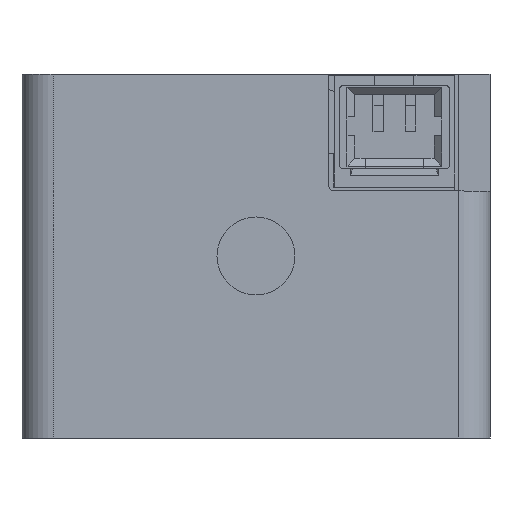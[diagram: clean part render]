
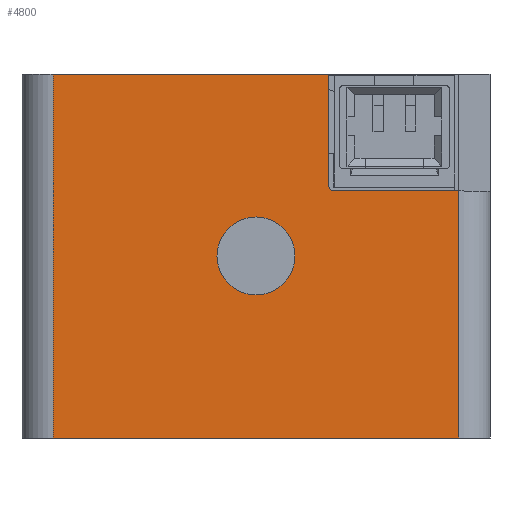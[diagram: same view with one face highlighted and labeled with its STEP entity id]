
A CAD part, front view. The second image highlights one B-rep face of the part: STEP entity #4800.
In plain terms, the highlighted planar face has unit normal (0, -1, 0).
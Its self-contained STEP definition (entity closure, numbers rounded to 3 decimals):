
#112 = VECTOR ( 'NONE', #7958, 1000. ) ;
#277 = EDGE_CURVE ( 'NONE', #3797, #7557, #8191, .T. ) ;
#347 = CARTESIAN_POINT ( 'NONE',  ( 7.8, -19.9, -7. ) ) ;
#416 = CIRCLE ( 'NONE', #7800, 1.5 ) ;
#481 = CARTESIAN_POINT ( 'NONE',  ( 3., -19.9, -4.3 ) ) ;
#512 = VECTOR ( 'NONE', #2143, 1000. ) ;
#569 = CARTESIAN_POINT ( 'NONE',  ( 0., -19.9, -4.5 ) ) ;
#610 = AXIS2_PLACEMENT_3D ( 'NONE', #1858, #6377, #2515 ) ;
#653 = ORIENTED_EDGE ( 'NONE', *, *, #4329, .F. ) ;
#1043 = AXIS2_PLACEMENT_3D ( 'NONE', #481, #4995, #1119 ) ;
#1067 = EDGE_CURVE ( 'NONE', #7699, #4814, #416, .T. ) ;
#1096 = LINE ( 'NONE', #569, #4137 ) ;
#1098 = CARTESIAN_POINT ( 'NONE',  ( 0., -19.9, -5.5 ) ) ;
#1119 = DIRECTION ( 'NONE',  ( 0., 0., 1. ) ) ;
#1189 = VERTEX_POINT ( 'NONE', #7902 ) ;
#1252 = EDGE_CURVE ( 'NONE', #6097, #2149, #2420, .T. ) ;
#1495 = CARTESIAN_POINT ( 'NONE',  ( 0., -19.9, -14. ) ) ;
#1527 = FACE_OUTER_BOUND ( 'NONE', #4176, .T. ) ;
#1783 = VERTEX_POINT ( 'NONE', #3955 ) ;
#1858 = CARTESIAN_POINT ( 'NONE',  ( -7.8, -19.9, -14. ) ) ;
#1952 = ORIENTED_EDGE ( 'NONE', *, *, #1252, .F. ) ;
#1963 = AXIS2_PLACEMENT_3D ( 'NONE', #6140, #2274, #6791 ) ;
#2105 = EDGE_CURVE ( 'NONE', #1783, #6097, #1096, .T. ) ;
#2143 = DIRECTION ( 'NONE',  ( 0., 0., -1. ) ) ;
#2149 = VERTEX_POINT ( 'NONE', #7053 ) ;
#2155 = ORIENTED_EDGE ( 'NONE', *, *, #2105, .F. ) ;
#2179 = ORIENTED_EDGE ( 'NONE', *, *, #7015, .F. ) ;
#2234 = CARTESIAN_POINT ( 'NONE',  ( 0., -19.9, -7. ) ) ;
#2274 = DIRECTION ( 'NONE',  ( 0., -1., 0. ) ) ;
#2420 = LINE ( 'NONE', #347, #512 ) ;
#2443 = CARTESIAN_POINT ( 'NONE',  ( 2.8, -19.9, -7. ) ) ;
#2515 = DIRECTION ( 'NONE',  ( 0., 0., 1. ) ) ;
#2886 = CARTESIAN_POINT ( 'NONE',  ( -7.8, -19.9, -14. ) ) ;
#2898 = DIRECTION ( 'NONE',  ( 0., 0., 1. ) ) ;
#3064 = VECTOR ( 'NONE', #4923, 1000. ) ;
#3104 = DIRECTION ( 'NONE',  ( 0., 0., -1. ) ) ;
#3569 = ORIENTED_EDGE ( 'NONE', *, *, #4164, .F. ) ;
#3591 = CARTESIAN_POINT ( 'NONE',  ( -7.8, -19.9, -7. ) ) ;
#3663 = LINE ( 'NONE', #2443, #5364 ) ;
#3797 = VERTEX_POINT ( 'NONE', #6206 ) ;
#3955 = CARTESIAN_POINT ( 'NONE',  ( 3., -19.9, -4.5 ) ) ;
#4117 = VERTEX_POINT ( 'NONE', #2886 ) ;
#4137 = VECTOR ( 'NONE', #5676, 1000. ) ;
#4164 = EDGE_CURVE ( 'NONE', #4117, #3797, #4859, .T. ) ;
#4176 = EDGE_LOOP ( 'NONE', ( #5197, #653, #5571, #3569, #2179, #1952, #2155 ) ) ;
#4234 = DIRECTION ( 'NONE',  ( 0., 0., 1. ) ) ;
#4324 = CIRCLE ( 'NONE', #1963, 1.5 ) ;
#4329 = EDGE_CURVE ( 'NONE', #7557, #1189, #3663, .T. ) ;
#4667 = VECTOR ( 'NONE', #4234, 1000. ) ;
#4757 = FACE_BOUND ( 'NONE', #7851, .T. ) ;
#4800 = ADVANCED_FACE ( 'NONE', ( #4757, #1527 ), #5711, .F. ) ;
#4814 = VERTEX_POINT ( 'NONE', #6408 ) ;
#4859 = LINE ( 'NONE', #3591, #4667 ) ;
#4923 = DIRECTION ( 'NONE',  ( 1., 0., 0. ) ) ;
#4940 = CARTESIAN_POINT ( 'NONE',  ( 7.8, -19.9, -4.5 ) ) ;
#4995 = DIRECTION ( 'NONE',  ( 0., -1., 0. ) ) ;
#5197 = ORIENTED_EDGE ( 'NONE', *, *, #6604, .F. ) ;
#5364 = VECTOR ( 'NONE', #3104, 1000. ) ;
#5427 = ORIENTED_EDGE ( 'NONE', *, *, #1067, .F. ) ;
#5475 = CARTESIAN_POINT ( 'NONE',  ( 2.8, -19.9, 0. ) ) ;
#5571 = ORIENTED_EDGE ( 'NONE', *, *, #277, .F. ) ;
#5676 = DIRECTION ( 'NONE',  ( 1., 0., 0. ) ) ;
#5711 = PLANE ( 'NONE',  #610 ) ;
#6097 = VERTEX_POINT ( 'NONE', #4940 ) ;
#6140 = CARTESIAN_POINT ( 'NONE',  ( 0., -19.9, -7. ) ) ;
#6206 = CARTESIAN_POINT ( 'NONE',  ( -7.8, -19.9, 0. ) ) ;
#6354 = LINE ( 'NONE', #1495, #112 ) ;
#6377 = DIRECTION ( 'NONE',  ( 0., 1., 0. ) ) ;
#6408 = CARTESIAN_POINT ( 'NONE',  ( 0., -19.9, -8.5 ) ) ;
#6604 = EDGE_CURVE ( 'NONE', #1189, #1783, #7879, .T. ) ;
#6752 = DIRECTION ( 'NONE',  ( 0., -1., 0. ) ) ;
#6791 = DIRECTION ( 'NONE',  ( 0., 0., 1. ) ) ;
#7015 = EDGE_CURVE ( 'NONE', #2149, #4117, #6354, .T. ) ;
#7053 = CARTESIAN_POINT ( 'NONE',  ( 7.8, -19.9, -14. ) ) ;
#7557 = VERTEX_POINT ( 'NONE', #5475 ) ;
#7699 = VERTEX_POINT ( 'NONE', #1098 ) ;
#7740 = ORIENTED_EDGE ( 'NONE', *, *, #8106, .F. ) ;
#7800 = AXIS2_PLACEMENT_3D ( 'NONE', #2234, #6752, #2898 ) ;
#7851 = EDGE_LOOP ( 'NONE', ( #5427, #7740 ) ) ;
#7879 = CIRCLE ( 'NONE', #1043, 0.2 ) ;
#7902 = CARTESIAN_POINT ( 'NONE',  ( 2.8, -19.9, -4.3 ) ) ;
#7958 = DIRECTION ( 'NONE',  ( -1., 0., 0. ) ) ;
#8106 = EDGE_CURVE ( 'NONE', #4814, #7699, #4324, .T. ) ;
#8132 = CARTESIAN_POINT ( 'NONE',  ( 0., -19.9, 0. ) ) ;
#8191 = LINE ( 'NONE', #8132, #3064 ) ;
